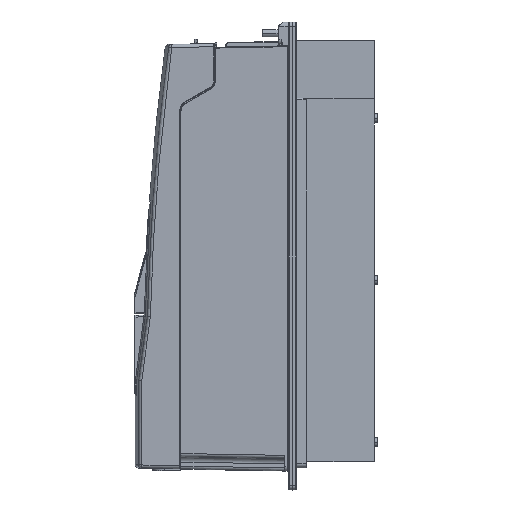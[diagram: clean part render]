
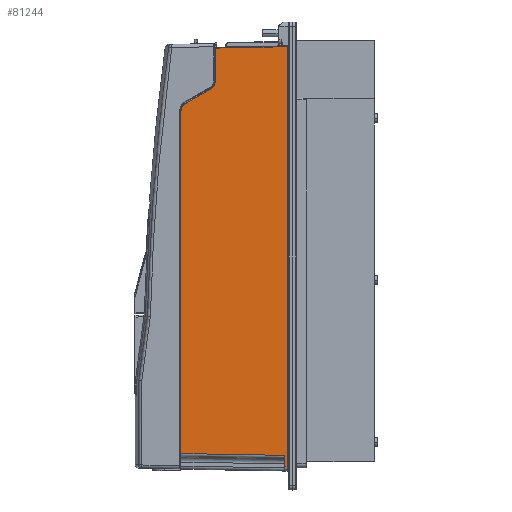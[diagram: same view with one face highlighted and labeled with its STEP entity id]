
A CAD part, left-side view. The second image highlights one B-rep face of the part: STEP entity #81244.
In plain terms, the highlighted planar face has unit normal (-1, 0.018, 0) as drawn and (1, 0.018, 0) by its records, which use the part's own axes.
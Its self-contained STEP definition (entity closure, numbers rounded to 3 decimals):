
#918 = VERTEX_POINT ( 'NONE', #17760 ) ;
#1968 = CARTESIAN_POINT ( 'NONE',  ( 123.214, 4.804, 471. ) ) ;
#2281 = LINE ( 'NONE', #86852, #72197 ) ;
#3754 = ORIENTED_EDGE ( 'NONE', *, *, #55684, .T. ) ;
#4368 = ORIENTED_EDGE ( 'NONE', *, *, #59324, .T. ) ;
#4425 =( BOUNDED_CURVE ( )  B_SPLINE_CURVE ( 3, ( #55061, #99376, #86302, #31558 ),
 .UNSPECIFIED., .F., .T. ) 
 B_SPLINE_CURVE_WITH_KNOTS ( ( 4, 4 ),
 ( 2.094, 3.142 ),
 .UNSPECIFIED. ) 
 CURVE ( )  GEOMETRIC_REPRESENTATION_ITEM ( )  RATIONAL_B_SPLINE_CURVE ( ( 1., 0.911, 0.911, 1. ) ) 
 REPRESENTATION_ITEM ( '' )  );
#4853 = CARTESIAN_POINT ( 'NONE',  ( 121.743, 86.904, 46.56 ) ) ;
#7688 = CARTESIAN_POINT ( 'NONE',  ( 121.743, 86.904, 46.56 ) ) ;
#8178 = ORIENTED_EDGE ( 'NONE', *, *, #31114, .T. ) ;
#9087 = ORIENTED_EDGE ( 'NONE', *, *, #11691, .T. ) ;
#9270 = VERTEX_POINT ( 'NONE', #26781 ) ;
#11489 = CARTESIAN_POINT ( 'NONE',  ( 123.213, 4.86, 454.589 ) ) ;
#11691 = EDGE_CURVE ( 'NONE', #60552, #39960, #68825, .T. ) ;
#15288 = DIRECTION ( 'NONE',  ( 0.018, -1., 0. ) ) ;
#15405 = LINE ( 'NONE', #27926, #90527 ) ;
#15512 = VERTEX_POINT ( 'NONE', #66347 ) ;
#16213 = VECTOR ( 'NONE', #95792, 1000. ) ;
#17435 = CARTESIAN_POINT ( 'NONE',  ( 121.154, 119.804, 451.497 ) ) ;
#17760 = CARTESIAN_POINT ( 'NONE',  ( 121.241, 114.904, 62.726 ) ) ;
#17865 = ORIENTED_EDGE ( 'NONE', *, *, #32759, .T. ) ;
#18686 = DIRECTION ( 'NONE',  ( 0.018, -1., 0.017 ) ) ;
#18879 = LINE ( 'NONE', #41968, #37125 ) ;
#19756 = VERTEX_POINT ( 'NONE', #7688 ) ;
#19900 = CARTESIAN_POINT ( 'NONE',  ( 123.269, 1.704, -0.542 ) ) ;
#20224 = CARTESIAN_POINT ( 'NONE',  ( 123.214, 4.804, 454.869 ) ) ;
#20655 = VERTEX_POINT ( 'NONE', #97023 ) ;
#21404 = LINE ( 'NONE', #44967, #94350 ) ;
#24238 = VERTEX_POINT ( 'NONE', #70170 ) ;
#25035 = CARTESIAN_POINT ( 'NONE',  ( 121.15, 120., 37.726 ) ) ;
#26622 = VERTEX_POINT ( 'NONE', #92508 ) ;
#26757 = CARTESIAN_POINT ( 'NONE',  ( 121.15, 120., 471. ) ) ;
#26781 = CARTESIAN_POINT ( 'NONE',  ( 123.214, 4.804, 465.943 ) ) ;
#26964 = CARTESIAN_POINT ( 'NONE',  ( 123.207, 5.196, 453.497 ) ) ;
#27926 = CARTESIAN_POINT ( 'NONE',  ( 120.989, 129.004, 1.902 ) ) ;
#28986 = DIRECTION ( 'NONE',  ( 0., 0., 1. ) ) ;
#30030 = CARTESIAN_POINT ( 'NONE',  ( 123.212, 4.939, 453.502 ) ) ;
#31114 = EDGE_CURVE ( 'NONE', #26622, #38152, #45698, .T. ) ;
#31558 = CARTESIAN_POINT ( 'NONE',  ( 121.154, 119.804, 71.213 ) ) ;
#32759 = EDGE_CURVE ( 'NONE', #24238, #19756, #41911, .T. ) ;
#37125 = VECTOR ( 'NONE', #51147, 1000. ) ;
#37184 = CARTESIAN_POINT ( 'NONE',  ( 121.834, 81.804, 41.46 ) ) ;
#37363 = VECTOR ( 'NONE', #78090, 1000. ) ;
#38152 = VERTEX_POINT ( 'NONE', #19900 ) ;
#38307 = EDGE_CURVE ( 'NONE', #98632, #76624, #79785, .T. ) ;
#39960 = VERTEX_POINT ( 'NONE', #17435 ) ;
#40524 = ORIENTED_EDGE ( 'NONE', *, *, #38307, .T. ) ;
#41581 = DIRECTION ( 'NONE',  ( -1., -0.018, 0. ) ) ;
#41911 =( BOUNDED_CURVE ( )  B_SPLINE_CURVE ( 3, ( #90973, #37184, #75078, #4853 ),
 .UNSPECIFIED., .F., .T. ) 
 B_SPLINE_CURVE_WITH_KNOTS ( ( 4, 4 ),
 ( 0., 1.047 ),
 .UNSPECIFIED. ) 
 CURVE ( )  GEOMETRIC_REPRESENTATION_ITEM ( )  RATIONAL_B_SPLINE_CURVE ( ( 1., 0.911, 0.911, 1. ) ) 
 REPRESENTATION_ITEM ( '' )  );
#41968 = CARTESIAN_POINT ( 'NONE',  ( 121.84, 81.5, 471. ) ) ;
#43795 = CARTESIAN_POINT ( 'NONE',  ( 121.154, 119.804, 471. ) ) ;
#44311 = CARTESIAN_POINT ( 'NONE',  ( 123.214, 4.804, 455.156 ) ) ;
#44967 = CARTESIAN_POINT ( 'NONE',  ( 121.241, 114.901, 62.724 ) ) ;
#45698 = LINE ( 'NONE', #69241, #59949 ) ;
#45858 = CARTESIAN_POINT ( 'NONE',  ( 123.207, 5.196, 453.497 ) ) ;
#46540 = ORIENTED_EDGE ( 'NONE', *, *, #92345, .F. ) ;
#46994 = VECTOR ( 'NONE', #15288, 1000. ) ;
#48568 = LINE ( 'NONE', #25035, #46994 ) ;
#50470 = CARTESIAN_POINT ( 'NONE',  ( 123.209, 5.102, 453.767 ) ) ;
#51138 = ORIENTED_EDGE ( 'NONE', *, *, #56769, .T. ) ;
#51147 = DIRECTION ( 'NONE',  ( 0., 0., -1. ) ) ;
#51950 = DIRECTION ( 'NONE',  ( -0.018, 1., 0.019 ) ) ;
#53304 = EDGE_CURVE ( 'NONE', #15512, #20655, #18879, .T. ) ;
#55061 = CARTESIAN_POINT ( 'NONE',  ( 121.241, 114.904, 62.726 ) ) ;
#55684 = EDGE_CURVE ( 'NONE', #39960, #98632, #93493, .T. ) ;
#56769 = EDGE_CURVE ( 'NONE', #76624, #9270, #79865, .T. ) ;
#58451 = ORIENTED_EDGE ( 'NONE', *, *, #75134, .T. ) ;
#58788 = CARTESIAN_POINT ( 'NONE',  ( 123.214, 4.804, 455.156 ) ) ;
#59324 = EDGE_CURVE ( 'NONE', #9270, #26622, #2281, .T. ) ;
#59949 = VECTOR ( 'NONE', #85116, 1000. ) ;
#60552 = VERTEX_POINT ( 'NONE', #97272 ) ;
#61714 = ORIENTED_EDGE ( 'NONE', *, *, #72454, .T. ) ;
#63043 = VECTOR ( 'NONE', #28986, 1000. ) ;
#66123 = EDGE_CURVE ( 'NONE', #19756, #918, #21404, .T. ) ;
#66294 = EDGE_LOOP ( 'NONE', ( #46540, #17865, #93260, #61714, #9087, #3754, #40524, #51138, #4368, #8178, #58451, #83546 ) ) ;
#66347 = CARTESIAN_POINT ( 'NONE',  ( 121.84, 81.5, 37.726 ) ) ;
#68825 = LINE ( 'NONE', #43795, #63043 ) ;
#69241 = CARTESIAN_POINT ( 'NONE',  ( 123.269, 1.704, 471. ) ) ;
#70170 = CARTESIAN_POINT ( 'NONE',  ( 121.834, 81.804, 37.726 ) ) ;
#72197 = VECTOR ( 'NONE', #18686, 1000. ) ;
#72454 = EDGE_CURVE ( 'NONE', #918, #60552, #4425, .T. ) ;
#72589 = AXIS2_PLACEMENT_3D ( 'NONE', #26757, #41581, #94897 ) ;
#75078 = CARTESIAN_POINT ( 'NONE',  ( 121.801, 83.67, 44.693 ) ) ;
#75134 = EDGE_CURVE ( 'NONE', #38152, #20655, #15405, .T. ) ;
#76198 = DIRECTION ( 'NONE',  ( -0.016, 0.866, 0.5 ) ) ;
#76624 = VERTEX_POINT ( 'NONE', #58788 ) ;
#78090 = DIRECTION ( 'NONE',  ( 0.018, -1., 0.017 ) ) ;
#79785 = B_SPLINE_CURVE_WITH_KNOTS ( 'NONE', 3,
 ( #26964, #50470, #81706, #11489, #20224, #44311 ),
 .UNSPECIFIED., .F., .F.,
 ( 4, 2, 4 ),
 ( 0., 0.001, 0.002 ),
 .UNSPECIFIED. ) ;
#79865 = LINE ( 'NONE', #1968, #16213 ) ;
#80478 = FACE_OUTER_BOUND ( 'NONE', #66294, .T. ) ;
#81244 = ADVANCED_FACE ( 'NONE', ( #80478 ), #87673, .F. ) ;
#81706 = CARTESIAN_POINT ( 'NONE',  ( 123.21, 5.009, 454.037 ) ) ;
#83546 = ORIENTED_EDGE ( 'NONE', *, *, #53304, .F. ) ;
#85116 = DIRECTION ( 'NONE',  ( 0., 0., -1. ) ) ;
#86302 = CARTESIAN_POINT ( 'NONE',  ( 121.154, 119.804, 67.626 ) ) ;
#86852 = CARTESIAN_POINT ( 'NONE',  ( 123.275, 1.413, 466.002 ) ) ;
#87673 = PLANE ( 'NONE',  #72589 ) ;
#90527 = VECTOR ( 'NONE', #51950, 1000. ) ;
#90973 = CARTESIAN_POINT ( 'NONE',  ( 121.834, 81.804, 37.726 ) ) ;
#92345 = EDGE_CURVE ( 'NONE', #24238, #15512, #48568, .T. ) ;
#92508 = CARTESIAN_POINT ( 'NONE',  ( 123.269, 1.704, 465.997 ) ) ;
#93260 = ORIENTED_EDGE ( 'NONE', *, *, #66123, .T. ) ;
#93493 = LINE ( 'NONE', #30030, #37363 ) ;
#94350 = VECTOR ( 'NONE', #76198, 1000. ) ;
#94897 = DIRECTION ( 'NONE',  ( 0.018, -1., 0. ) ) ;
#95792 = DIRECTION ( 'NONE',  ( 0., 0., 1. ) ) ;
#97023 = CARTESIAN_POINT ( 'NONE',  ( 121.84, 81.5, 0.99 ) ) ;
#97272 = CARTESIAN_POINT ( 'NONE',  ( 121.154, 119.804, 71.213 ) ) ;
#98632 = VERTEX_POINT ( 'NONE', #45858 ) ;
#99376 = CARTESIAN_POINT ( 'NONE',  ( 121.186, 118.01, 64.519 ) ) ;
